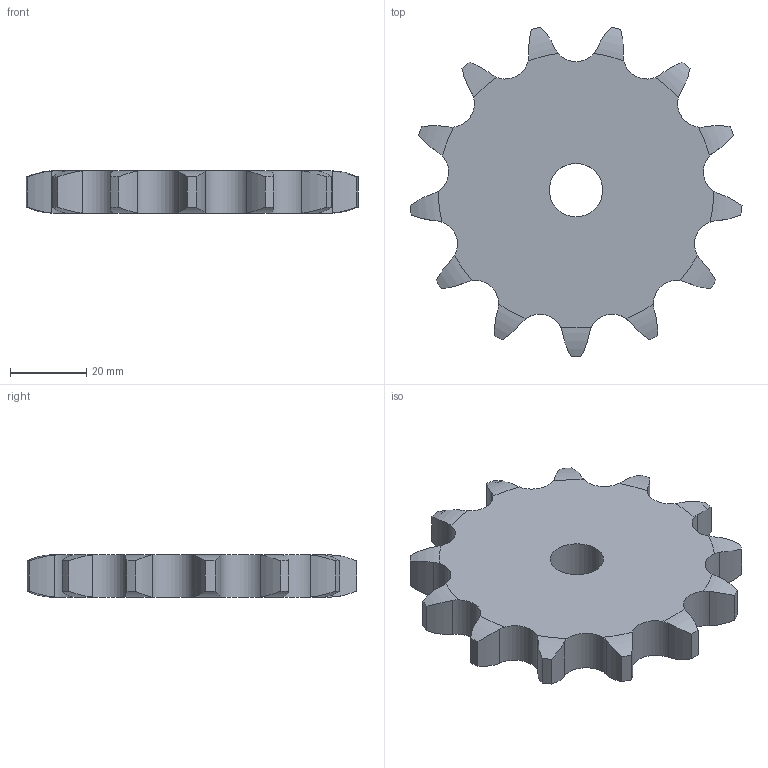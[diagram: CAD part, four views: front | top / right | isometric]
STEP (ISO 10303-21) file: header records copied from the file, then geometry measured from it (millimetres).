
FILE_DESCRIPTION((''),'2;1');
FILE_NAME('500-401-0013_PRT','2021-02-12T',('Brieden'),('Brieden'),'PRO/ENGINEER BY PARAMETRIC TECHNOLOGY CORPORATION, 2010160','PRO/ENGINEER BY PARAMETRIC TECHNOLOGY CORPORATION, 2010160','');
FILE_SCHEMA(('AUTOMOTIVE_DESIGN { 1 0 10303 214 1 1 1 1 }'));
Length unit declared in the file: millimetre
Products named in the file (1): 500-401-0013_PRT
Bounding box: 87.13 x 86.51 x 11.1 mm (x, y, z)
Volume: 47349.4 mm3; surface area: 13083.6 mm2
Topology: 1 solids, 1 shells, 82 faces, 240 edges, 160 vertices
Faces by surface type: cylinder 54, torus 26, plane 2
Entity records: 3914 total; most frequent: CARTESIAN_POINT 1067, ORIENTED_EDGE 480, DIRECTION 382, PRESENTATION_STYLE_ASSIGNMENT 241, STYLED_ITEM 241, CURVE_STYLE 240, EDGE_CURVE 240, AXIS2_PLACEMENT_3D 164
